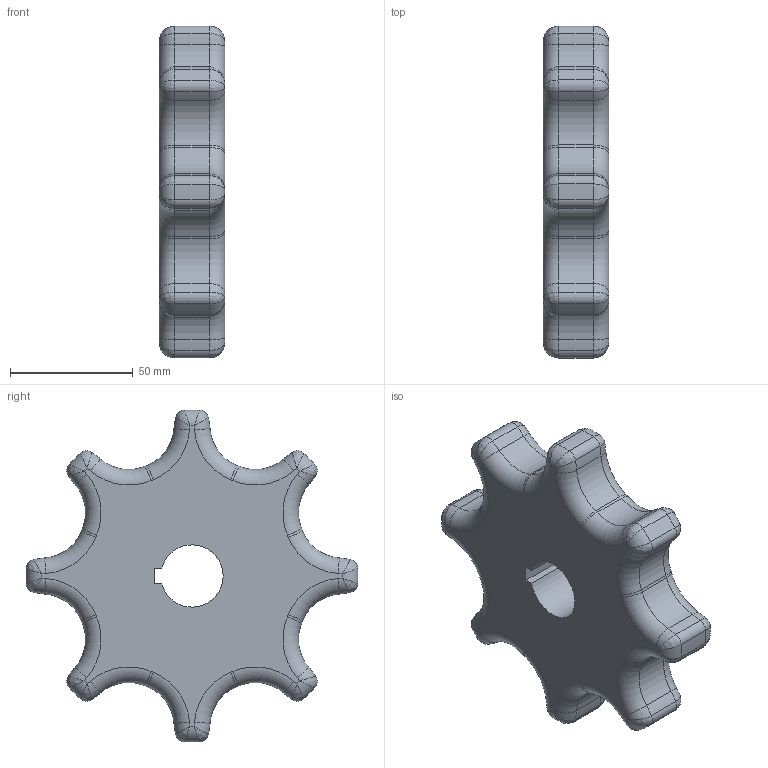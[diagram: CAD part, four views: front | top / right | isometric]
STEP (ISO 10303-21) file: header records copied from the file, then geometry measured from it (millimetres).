
FILE_DESCRIPTION((''),'2;1');
FILE_NAME('S3000_SPROCKET_52X1-1_4_RND','2008-12-12T',('jmumphre'),(''),'PRO/ENGINEER BY PARAMETRIC TECHNOLOGY CORPORATION, 2008150','PRO/ENGINEER BY PARAMETRIC TECHNOLOGY CORPORATION, 2008150','');
FILE_SCHEMA(('CONFIG_CONTROL_DESIGN'));
Length unit declared in the file: inch
Products named in the file (1): S3000_SPROCKET_52X1-1_4_RND
Bounding box: 26.8 x 135.33 x 135.33 mm (x, y, z)
Volume: 246769.6 mm3; surface area: 32482.8 mm2
Topology: 1 solids, 1 shells, 198 faces, 428 edges, 232 vertices
Faces by surface type: torus 80, cylinder 73, bspline 32, plane 13
Entity records: 7354 total; most frequent: CARTESIAN_POINT 3114, DIRECTION 954, ORIENTED_EDGE 856, EDGE_CURVE 428, AXIS2_PLACEMENT_3D 424, CIRCLE 258, VERTEX_POINT 232, EDGE_LOOP 200
